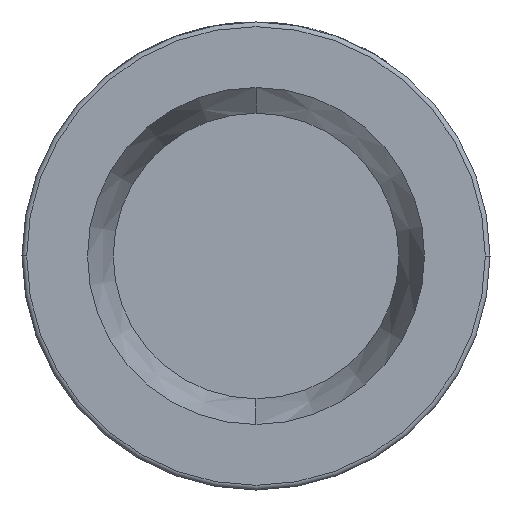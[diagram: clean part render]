
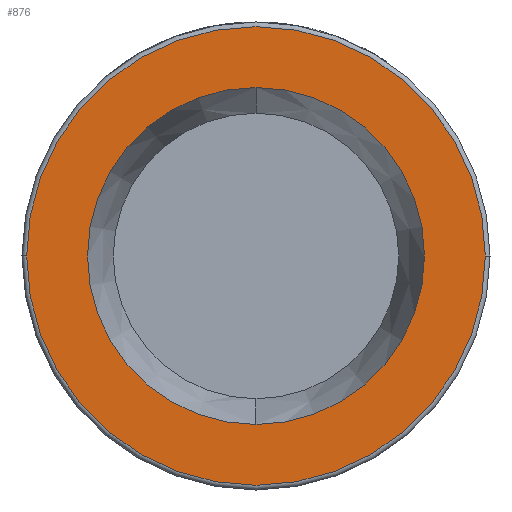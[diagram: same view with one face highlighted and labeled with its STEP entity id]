
A CAD part, front view. The second image highlights one B-rep face of the part: STEP entity #876.
In plain terms, the highlighted planar face has unit normal (0, -1, 0).
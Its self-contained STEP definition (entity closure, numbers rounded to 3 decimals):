
#225 = FACE_BOUND ( 'NONE', #4380, .T. ) ;
#237 = CARTESIAN_POINT ( 'NONE',  ( 0., -32., 0. ) ) ;
#287 = VERTEX_POINT ( 'NONE', #1540 ) ;
#309 = ORIENTED_EDGE ( 'NONE', *, *, #2369, .F. ) ;
#729 = CARTESIAN_POINT ( 'NONE',  ( -49., -32., 0. ) ) ;
#772 = AXIS2_PLACEMENT_3D ( 'NONE', #1926, #2323, #1170 ) ;
#861 = CARTESIAN_POINT ( 'NONE',  ( 0., -32., 0. ) ) ;
#876 = ADVANCED_FACE ( 'NONE', ( #225, #4375 ), #3012, .T. ) ;
#926 = DIRECTION ( 'NONE',  ( 0., 0., -1. ) ) ;
#980 = DIRECTION ( 'NONE',  ( 0., -1., 0. ) ) ;
#1170 = DIRECTION ( 'NONE',  ( 0., 0., -1. ) ) ;
#1540 = CARTESIAN_POINT ( 'NONE',  ( 49., -32., 0. ) ) ;
#1625 = DIRECTION ( 'NONE',  ( 0., -1., 0. ) ) ;
#1635 = CARTESIAN_POINT ( 'NONE',  ( 50., -32., 0. ) ) ;
#1649 = DIRECTION ( 'NONE',  ( 1., 0., 0. ) ) ;
#1724 = CARTESIAN_POINT ( 'NONE',  ( 0., -32., -36. ) ) ;
#1806 = VERTEX_POINT ( 'NONE', #2494 ) ;
#1831 = ORIENTED_EDGE ( 'NONE', *, *, #2990, .F. ) ;
#1888 = CIRCLE ( 'NONE', #1963, 49. ) ;
#1926 = CARTESIAN_POINT ( 'NONE',  ( 0., -32., 0. ) ) ;
#1963 = AXIS2_PLACEMENT_3D ( 'NONE', #2454, #3414, #2407 ) ;
#2024 = CIRCLE ( 'NONE', #2252, 49. ) ;
#2032 = EDGE_CURVE ( 'NONE', #287, #3855, #2024, .T. ) ;
#2252 = AXIS2_PLACEMENT_3D ( 'NONE', #237, #980, #1649 ) ;
#2323 = DIRECTION ( 'NONE',  ( 0., -1., 0. ) ) ;
#2369 = EDGE_CURVE ( 'NONE', #2816, #1806, #3582, .T. ) ;
#2407 = DIRECTION ( 'NONE',  ( 1., 0., 0. ) ) ;
#2410 = AXIS2_PLACEMENT_3D ( 'NONE', #861, #1625, #926 ) ;
#2422 = AXIS2_PLACEMENT_3D ( 'NONE', #1635, #3050, #3681 ) ;
#2454 = CARTESIAN_POINT ( 'NONE',  ( 0., -32., 0. ) ) ;
#2494 = CARTESIAN_POINT ( 'NONE',  ( 0., -32., 36. ) ) ;
#2602 = ORIENTED_EDGE ( 'NONE', *, *, #2032, .T. ) ;
#2816 = VERTEX_POINT ( 'NONE', #1724 ) ;
#2927 = CIRCLE ( 'NONE', #2410, 36. ) ;
#2990 = EDGE_CURVE ( 'NONE', #1806, #2816, #2927, .T. ) ;
#3012 = PLANE ( 'NONE',  #2422 ) ;
#3050 = DIRECTION ( 'NONE',  ( 0., -1., 0. ) ) ;
#3414 = DIRECTION ( 'NONE',  ( 0., -1., 0. ) ) ;
#3582 = CIRCLE ( 'NONE', #772, 36. ) ;
#3681 = DIRECTION ( 'NONE',  ( 1., 0., 0. ) ) ;
#3782 = EDGE_CURVE ( 'NONE', #3855, #287, #1888, .T. ) ;
#3855 = VERTEX_POINT ( 'NONE', #729 ) ;
#4050 = ORIENTED_EDGE ( 'NONE', *, *, #3782, .T. ) ;
#4375 = FACE_OUTER_BOUND ( 'NONE', #4405, .T. ) ;
#4380 = EDGE_LOOP ( 'NONE', ( #309, #1831 ) ) ;
#4405 = EDGE_LOOP ( 'NONE', ( #2602, #4050 ) ) ;
